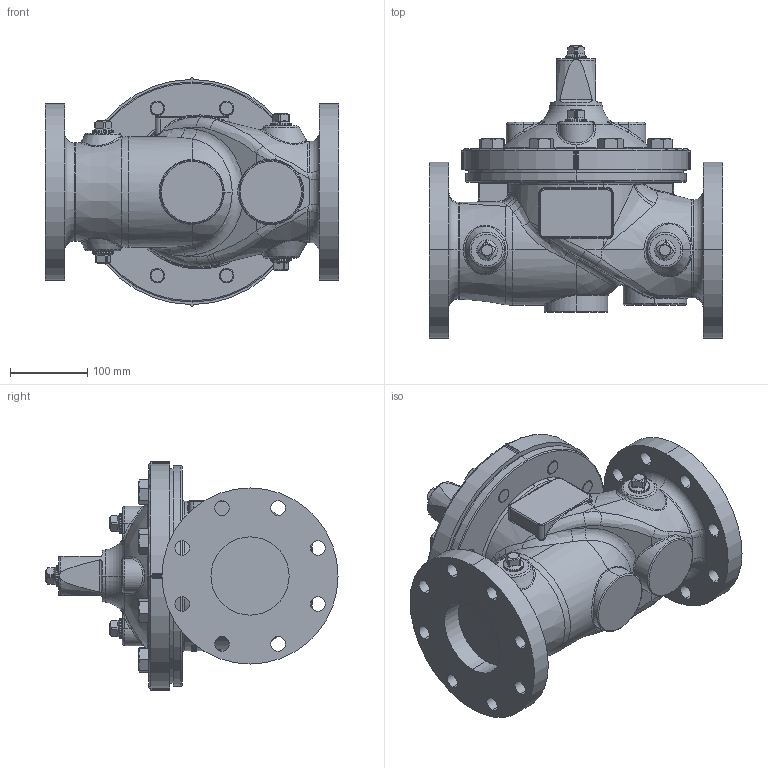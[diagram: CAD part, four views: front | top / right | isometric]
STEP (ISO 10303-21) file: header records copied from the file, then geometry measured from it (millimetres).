
FILE_DESCRIPTION (( 'STEP AP203' ), '1' );
FILE_NAME ('4in Hytrol 150AG.STEP', '2017-02-14T16:56:00', ( '' ), ( '' ), 'SwSTEP 2.0', 'SolidWorks 2017', '' );
FILE_SCHEMA (( 'CONFIG_CONTROL_DESIGN' ));
Length unit declared in the file: inch
Products named in the file (5): Bolt .750-10 UNC  (67609)_1.75   67609-04A; 4in Cover (no core)_Default DI; 4in Body HyGl150A STD (BLUE)_Default 150 FLAT FACE; .750 NPT PIPE PLUG (67660)_MONEL; 4in Hytrol 150AG
Assembly tree (17 placements, depth 2):
  4in Hytrol 150AG
    Bolt .750-10 UNC  (67609)_1.75   67609-04A  x8
    4in Cover (no core)_Default DI
    4in Body HyGl150A STD (BLUE)_Default 150 FLAT FACE
    .750 NPT PIPE PLUG (67660)_MONEL  x7
Bounding box: 381 x 379.3 x 297.69 mm (x, y, z)
Volume: 11794212.1 mm3; surface area: 766358.8 mm2
Topology: 17 solids, 19 shells, 1991 faces, 4564 edges, 2563 vertices
Faces by surface type: cone 456, cylinder 446, bspline 374, plane 352, torus 220, sphere 143
Entity records: 51044 total; most frequent: CARTESIAN_POINT 23778, ORIENTED_EDGE 5728, DIRECTION 5334, EDGE_CURVE 2864, AXIS2_PLACEMENT_3D 2258, VERTEX_POINT 1694, EDGE_LOOP 1338, CIRCLE 1288
